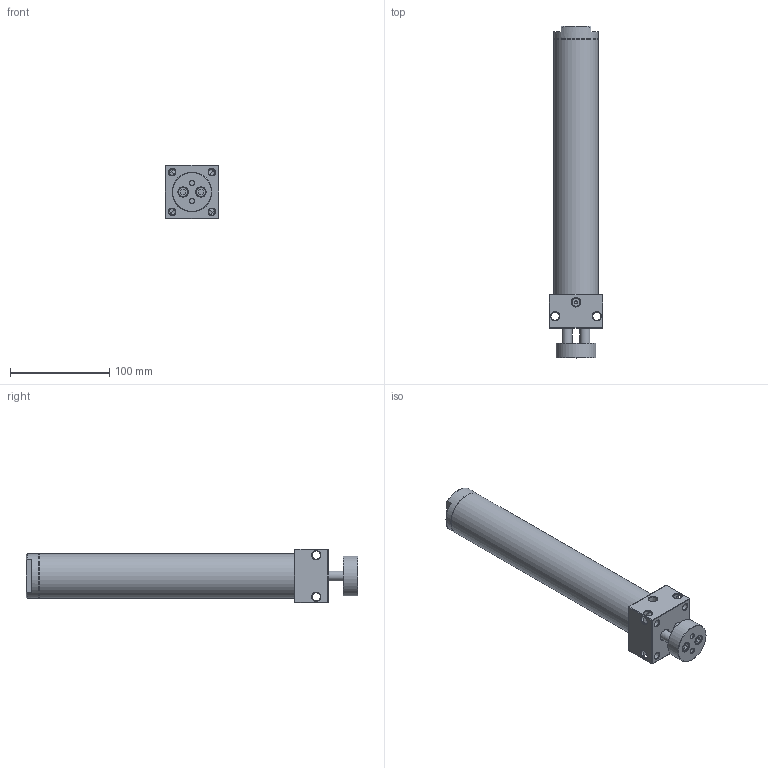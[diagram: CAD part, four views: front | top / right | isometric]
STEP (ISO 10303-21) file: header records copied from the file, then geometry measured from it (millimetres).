
FILE_DESCRIPTION((''),'2;1');
FILE_NAME('I:\3D電子目錄\氣缸\DBT\DBT\DBT40\DBT40x200.stp','2007-10-08T09:01:19',('Administrator'),(''),'Autodesk Inventor 2008','Autodesk Inventor 2008','');
FILE_SCHEMA(('AUTOMOTIVE_DESIGN { 1 0 10303 214 1 1 1 1 }'));
Length unit declared in the file: millimetre
Products named in the file (1): DBT40x200
Bounding box: 54 x 334 x 54 mm (x, y, z)
Volume: 229905.6 mm3; surface area: 107909.3 mm2
Topology: 5 solids, 5 shells, 164 faces, 360 edges, 215 vertices
Faces by surface type: plane 57, bspline 47, cone 37, cylinder 23
Full cylindrical faces by diameter (mm): 3 x1, 4.3 x1, 6 x1, 9.5 x1, 10 x4, 12 x1, 13 x1, 22 x1, 38.8 x2, 40 x2, 40.8 x2, 42 x2, 42.2 x2, 45 x2
Entity records: 4662 total; most frequent: CARTESIAN_POINT 1568, DIRECTION 604, ORIENTED_EDGE 500, EDGE_LOOP 300, AXIS2_PLACEMENT_3D 256, EDGE_CURVE 250, VERTEX_POINT 196, FACE_OUTER_BOUND 164
